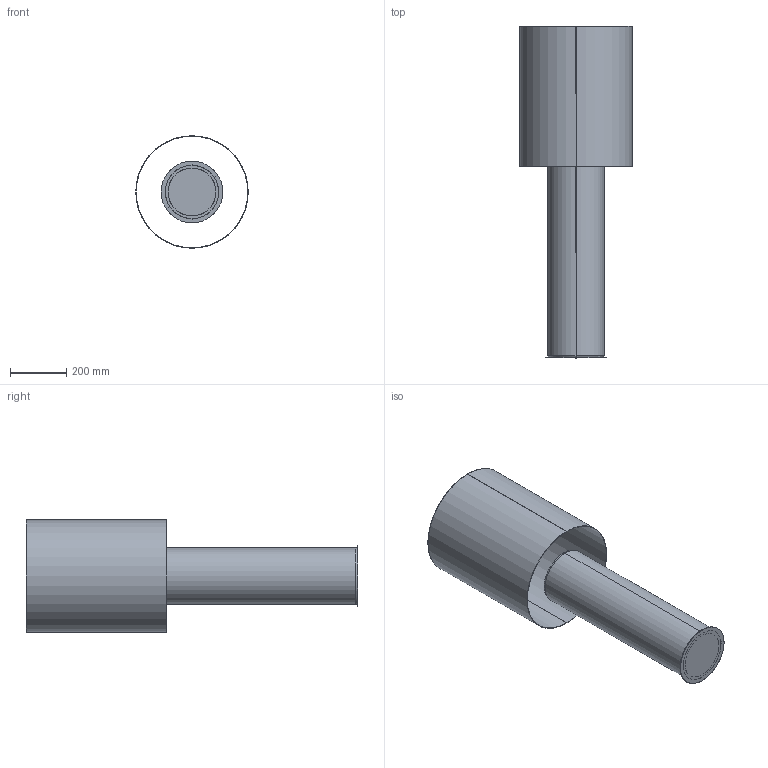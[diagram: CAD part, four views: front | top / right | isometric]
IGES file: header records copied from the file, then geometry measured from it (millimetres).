
Start section: SolidWorks IGES file using analytic representation for surfaces
Global section: file name: C:\Users\Agustin\Desktop\ENERO 2025\2D-3D\2D-3D AMEC_NAC139\AMEC_NAC139.IGS; native system: SolidWorks 2018; preprocessor: SolidWorks 2018; author: Agustin; date: 250117.162751; units: millimetre
Bounding box: 400 x 1182 x 400 mm (x, y, z)
Surface area: 2200003 mm2 (no closed solid volume)
Topology: 0 solids, 0 shells, 27 faces, 840 edges, 840 vertices
Faces by surface type: revolution 14, bspline 13
